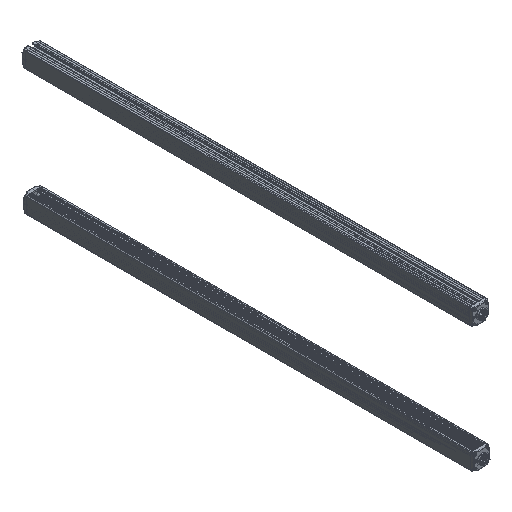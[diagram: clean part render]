
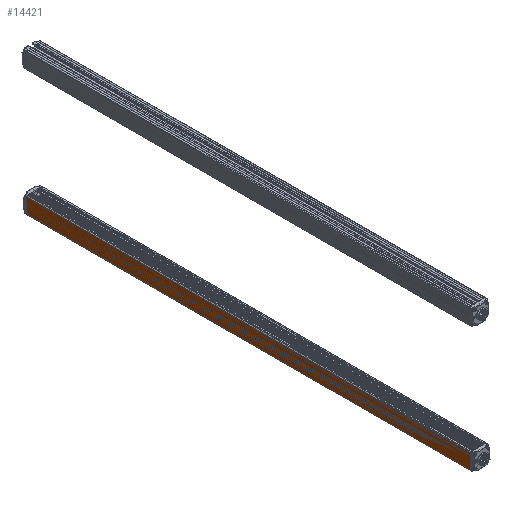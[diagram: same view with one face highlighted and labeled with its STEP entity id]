
A CAD part, isometric view. The second image highlights one B-rep face of the part: STEP entity #14421.
In plain terms, the highlighted planar face has unit normal (-1, 0, -0.009) as drawn and (1, 0, 0) by its records, which use the part's own axes.
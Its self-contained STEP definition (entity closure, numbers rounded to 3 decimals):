
#103 = VECTOR ( 'NONE', #15348, 1000. ) ;
#652 = FACE_OUTER_BOUND ( 'NONE', #824, .T. ) ;
#824 = EDGE_LOOP ( 'NONE', ( #5542, #7525, #13402, #10142 ) ) ;
#1060 = CARTESIAN_POINT ( 'NONE',  ( 15., 810., 10.9 ) ) ;
#2312 = CARTESIAN_POINT ( 'NONE',  ( 15., 810., -16.9 ) ) ;
#2537 = DIRECTION ( 'NONE',  ( 0., -1., 0. ) ) ;
#2855 = VERTEX_POINT ( 'NONE', #3538 ) ;
#3538 = CARTESIAN_POINT ( 'NONE',  ( 15., 810., -16.693 ) ) ;
#3865 = VERTEX_POINT ( 'NONE', #14104 ) ;
#5147 = LINE ( 'NONE', #1060, #7555 ) ;
#5542 = ORIENTED_EDGE ( 'NONE', *, *, #10342, .T. ) ;
#6040 = VECTOR ( 'NONE', #16846, 1000. ) ;
#6676 = PLANE ( 'NONE',  #15005 ) ;
#6805 = LINE ( 'NONE', #12322, #17970 ) ;
#7402 = CARTESIAN_POINT ( 'NONE',  ( 15., 0., 10.9 ) ) ;
#7441 = VERTEX_POINT ( 'NONE', #7402 ) ;
#7525 = ORIENTED_EDGE ( 'NONE', *, *, #10236, .T. ) ;
#7555 = VECTOR ( 'NONE', #2537, 1000. ) ;
#7805 = DIRECTION ( 'NONE',  ( -1., 0., 0. ) ) ;
#10142 = ORIENTED_EDGE ( 'NONE', *, *, #13564, .T. ) ;
#10190 = CARTESIAN_POINT ( 'NONE',  ( 15., 810., 10.9 ) ) ;
#10236 = EDGE_CURVE ( 'NONE', #3865, #2855, #15196, .T. ) ;
#10342 = EDGE_CURVE ( 'NONE', #7441, #3865, #12358, .T. ) ;
#10864 = DIRECTION ( 'NONE',  ( 0., 0., 1. ) ) ;
#12322 = CARTESIAN_POINT ( 'NONE',  ( 15., 810., -16.9 ) ) ;
#12358 = LINE ( 'NONE', #12523, #103 ) ;
#12523 = CARTESIAN_POINT ( 'NONE',  ( 15., 0., -16.9 ) ) ;
#13402 = ORIENTED_EDGE ( 'NONE', *, *, #13599, .F. ) ;
#13564 = EDGE_CURVE ( 'NONE', #17767, #7441, #5147, .T. ) ;
#13599 = EDGE_CURVE ( 'NONE', #17767, #2855, #6805, .T. ) ;
#14104 = CARTESIAN_POINT ( 'NONE',  ( 15., 0., -16.693 ) ) ;
#14421 = ADVANCED_FACE ( 'NONE', ( #652 ), #6676, .F. ) ;
#15005 = AXIS2_PLACEMENT_3D ( 'NONE', #2312, #7805, #10864 ) ;
#15196 = LINE ( 'NONE', #15370, #6040 ) ;
#15348 = DIRECTION ( 'NONE',  ( 0., 0., -1. ) ) ;
#15370 = CARTESIAN_POINT ( 'NONE',  ( 15., 810., -16.693 ) ) ;
#16846 = DIRECTION ( 'NONE',  ( 0., 1., 0. ) ) ;
#17767 = VERTEX_POINT ( 'NONE', #10190 ) ;
#17970 = VECTOR ( 'NONE', #18000, 1000. ) ;
#18000 = DIRECTION ( 'NONE',  ( 0., 0., -1. ) ) ;
